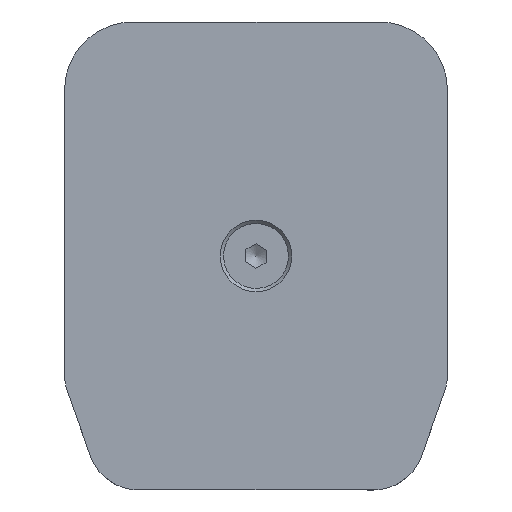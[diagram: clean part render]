
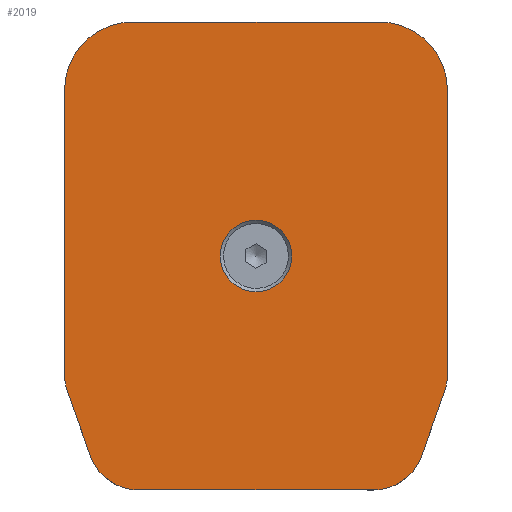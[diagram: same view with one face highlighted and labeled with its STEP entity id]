
A CAD part, top view. The second image highlights one B-rep face of the part: STEP entity #2019.
In plain terms, the highlighted planar face has unit normal (0, 0, 1).
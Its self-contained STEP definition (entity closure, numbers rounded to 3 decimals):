
#65=FACE_BOUND('',#390,.T.);
#133=CIRCLE('',#2162,8.4);
#135=CIRCLE('',#2165,16.);
#137=CIRCLE('',#2169,12.);
#139=CIRCLE('',#2173,12.);
#141=CIRCLE('',#2177,12.);
#143=CIRCLE('',#2181,12.);
#145=CIRCLE('',#2185,16.);
#269=FACE_OUTER_BOUND('',#389,.T.);
#389=EDGE_LOOP('',(#1727,#1728,#1729,#1730,#1731,#1732,#1733,#1734,#1735,
#1736,#1737,#1738));
#390=EDGE_LOOP('',(#1739));
#595=LINE('',#3215,#799);
#599=LINE('',#3227,#803);
#603=LINE('',#3239,#807);
#607=LINE('',#3251,#811);
#611=LINE('',#3263,#815);
#615=LINE('',#3274,#819);
#799=VECTOR('',#2629,66.895);
#803=VECTOR('',#2641,16.04);
#807=VECTOR('',#2653,55.21);
#811=VECTOR('',#2665,16.04);
#815=VECTOR('',#2677,66.895);
#819=VECTOR('',#2689,58.);
#961=VERTEX_POINT('',#3200);
#963=VERTEX_POINT('',#3205);
#964=VERTEX_POINT('',#3206);
#967=VERTEX_POINT('',#3214);
#969=VERTEX_POINT('',#3220);
#971=VERTEX_POINT('',#3226);
#973=VERTEX_POINT('',#3232);
#975=VERTEX_POINT('',#3238);
#977=VERTEX_POINT('',#3244);
#979=VERTEX_POINT('',#3250);
#981=VERTEX_POINT('',#3256);
#983=VERTEX_POINT('',#3262);
#985=VERTEX_POINT('',#3268);
#1212=EDGE_CURVE('',#961,#961,#133,.T.);
#1214=EDGE_CURVE('',#963,#964,#135,.T.);
#1218=EDGE_CURVE('',#964,#967,#595,.T.);
#1221=EDGE_CURVE('',#967,#969,#137,.T.);
#1224=EDGE_CURVE('',#969,#971,#599,.T.);
#1227=EDGE_CURVE('',#971,#973,#139,.T.);
#1230=EDGE_CURVE('',#973,#975,#603,.T.);
#1233=EDGE_CURVE('',#975,#977,#141,.T.);
#1236=EDGE_CURVE('',#977,#979,#607,.T.);
#1239=EDGE_CURVE('',#979,#981,#143,.T.);
#1242=EDGE_CURVE('',#981,#983,#611,.T.);
#1245=EDGE_CURVE('',#983,#985,#145,.T.);
#1248=EDGE_CURVE('',#985,#963,#615,.T.);
#1727=ORIENTED_EDGE('',*,*,#1214,.F.);
#1728=ORIENTED_EDGE('',*,*,#1248,.F.);
#1729=ORIENTED_EDGE('',*,*,#1245,.F.);
#1730=ORIENTED_EDGE('',*,*,#1242,.F.);
#1731=ORIENTED_EDGE('',*,*,#1239,.F.);
#1732=ORIENTED_EDGE('',*,*,#1236,.F.);
#1733=ORIENTED_EDGE('',*,*,#1233,.F.);
#1734=ORIENTED_EDGE('',*,*,#1230,.F.);
#1735=ORIENTED_EDGE('',*,*,#1227,.F.);
#1736=ORIENTED_EDGE('',*,*,#1224,.F.);
#1737=ORIENTED_EDGE('',*,*,#1221,.F.);
#1738=ORIENTED_EDGE('',*,*,#1218,.F.);
#1739=ORIENTED_EDGE('',*,*,#1212,.T.);
#1913=PLANE('',#2188);
#2019=ADVANCED_FACE('',(#269,#65),#1913,.T.);
#2162=AXIS2_PLACEMENT_3D('',#3201,#2615,#2616);
#2165=AXIS2_PLACEMENT_3D('',#3207,#2621,#2622);
#2169=AXIS2_PLACEMENT_3D('',#3221,#2634,#2635);
#2173=AXIS2_PLACEMENT_3D('',#3233,#2646,#2647);
#2177=AXIS2_PLACEMENT_3D('',#3245,#2658,#2659);
#2181=AXIS2_PLACEMENT_3D('',#3257,#2670,#2671);
#2185=AXIS2_PLACEMENT_3D('',#3269,#2682,#2683);
#2188=AXIS2_PLACEMENT_3D('',#3276,#2691,#2692);
#2615=DIRECTION('center_axis',(0.,0.,-1.));
#2616=DIRECTION('ref_axis',(1.,0.,0.));
#2621=DIRECTION('center_axis',(0.,0.,-1.));
#2622=DIRECTION('ref_axis',(-1.,0.,0.));
#2629=DIRECTION('',(0.,-1.,0.));
#2634=DIRECTION('center_axis',(0.,0.,-1.));
#2635=DIRECTION('ref_axis',(-0.942,0.336,0.));
#2641=DIRECTION('',(-0.336,-0.942,0.));
#2646=DIRECTION('center_axis',(0.,0.,-1.));
#2647=DIRECTION('ref_axis',(0.,1.,0.));
#2653=DIRECTION('',(-1.,0.,0.));
#2658=DIRECTION('center_axis',(0.,0.,-1.));
#2659=DIRECTION('ref_axis',(0.942,0.336,0.));
#2665=DIRECTION('',(-0.336,0.942,0.));
#2670=DIRECTION('center_axis',(0.,0.,-1.));
#2671=DIRECTION('ref_axis',(1.,0.,0.));
#2677=DIRECTION('',(0.,1.,0.));
#2682=DIRECTION('center_axis',(0.,0.,-1.));
#2683=DIRECTION('ref_axis',(0.,-1.,0.));
#2689=DIRECTION('',(1.,0.,0.));
#2691=DIRECTION('center_axis',(0.,0.,1.));
#2692=DIRECTION('ref_axis',(1.,0.,0.));
#3200=CARTESIAN_POINT('',(8.29,-0.405,4.));
#3201=CARTESIAN_POINT('Origin',(-0.11,-0.405,4.));
#3205=CARTESIAN_POINT('',(28.89,54.595,4.));
#3206=CARTESIAN_POINT('',(44.89,38.595,4.));
#3207=CARTESIAN_POINT('Origin',(28.89,38.595,4.));
#3214=CARTESIAN_POINT('',(44.89,-28.3,4.));
#3215=CARTESIAN_POINT('',(44.89,38.595,4.));
#3220=CARTESIAN_POINT('',(44.191,-32.336,4.));
#3221=CARTESIAN_POINT('Origin',(32.89,-28.3,4.));
#3226=CARTESIAN_POINT('',(38.796,-47.441,4.));
#3227=CARTESIAN_POINT('',(44.191,-32.336,4.));
#3232=CARTESIAN_POINT('',(27.495,-55.405,4.));
#3233=CARTESIAN_POINT('Origin',(27.495,-43.405,4.));
#3238=CARTESIAN_POINT('',(-27.715,-55.405,4.));
#3239=CARTESIAN_POINT('',(27.495,-55.405,4.));
#3244=CARTESIAN_POINT('',(-39.016,-47.441,4.));
#3245=CARTESIAN_POINT('Origin',(-27.715,-43.405,4.));
#3250=CARTESIAN_POINT('',(-44.411,-32.336,4.));
#3251=CARTESIAN_POINT('',(-39.016,-47.441,4.));
#3256=CARTESIAN_POINT('',(-45.11,-28.3,4.));
#3257=CARTESIAN_POINT('Origin',(-33.11,-28.3,4.));
#3262=CARTESIAN_POINT('',(-45.11,38.595,4.));
#3263=CARTESIAN_POINT('',(-45.11,-28.3,4.));
#3268=CARTESIAN_POINT('',(-29.11,54.595,4.));
#3269=CARTESIAN_POINT('Origin',(-29.11,38.595,4.));
#3274=CARTESIAN_POINT('',(-29.11,54.595,4.));
#3276=CARTESIAN_POINT('Origin',(-0.11,0.439,4.));
